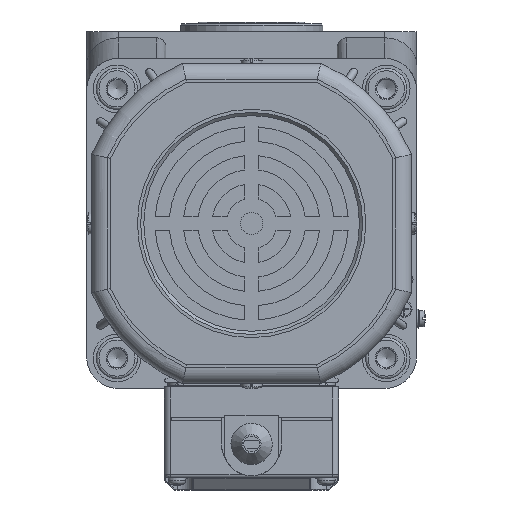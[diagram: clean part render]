
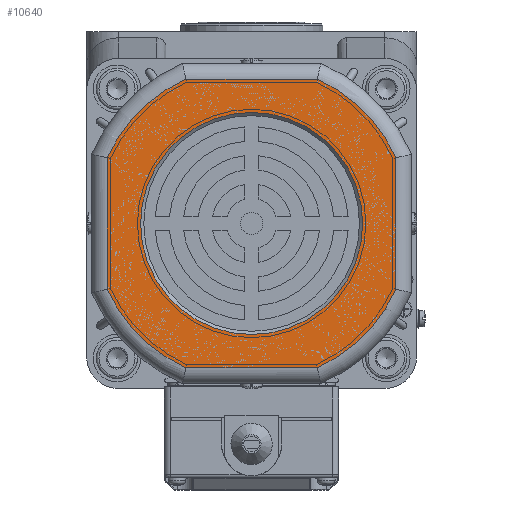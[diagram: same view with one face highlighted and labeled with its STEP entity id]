
A CAD part, left-side view. The second image highlights one B-rep face of the part: STEP entity #10640.
In plain terms, the highlighted planar face has unit normal (-1, 0, 0).
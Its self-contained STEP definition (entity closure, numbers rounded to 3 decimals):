
#1081=PLANE('',#41930);
#5493=LINE('',#59418,#8112);
#5494=LINE('',#59423,#8113);
#5495=LINE('',#59427,#8114);
#5496=LINE('',#59431,#8115);
#8112=VECTOR('',#47693,1.);
#8113=VECTOR('',#47696,1.);
#8114=VECTOR('',#47699,1.);
#8115=VECTOR('',#47702,1.);
#10640=ADVANCED_FACE('',(#13661,#13662),#1081,.F.);
#13661=FACE_BOUND('',#15000,.T.);
#13662=FACE_BOUND('',#15001,.T.);
#15000=EDGE_LOOP('',(#19329,#19330,#19331,#19332,#19333,#19334,#19335,#19336));
#15001=EDGE_LOOP('',(#19337));
#19329=ORIENTED_EDGE('',*,*,#33931,.T.);
#19330=ORIENTED_EDGE('',*,*,#33932,.T.);
#19331=ORIENTED_EDGE('',*,*,#33933,.T.);
#19332=ORIENTED_EDGE('',*,*,#33934,.T.);
#19333=ORIENTED_EDGE('',*,*,#33935,.T.);
#19334=ORIENTED_EDGE('',*,*,#33936,.T.);
#19335=ORIENTED_EDGE('',*,*,#33937,.T.);
#19336=ORIENTED_EDGE('',*,*,#33938,.T.);
#19337=ORIENTED_EDGE('',*,*,#33939,.T.);
#29749=VERTEX_POINT('',#59419);
#29750=VERTEX_POINT('',#59420);
#29751=VERTEX_POINT('',#59422);
#29752=VERTEX_POINT('',#59424);
#29753=VERTEX_POINT('',#59426);
#29754=VERTEX_POINT('',#59428);
#29755=VERTEX_POINT('',#59430);
#29756=VERTEX_POINT('',#59432);
#29757=VERTEX_POINT('',#59435);
#33931=EDGE_CURVE('',#29749,#29750,#5493,.T.);
#33932=EDGE_CURVE('',#29750,#29751,#39421,.T.);
#33933=EDGE_CURVE('',#29751,#29752,#5494,.T.);
#33934=EDGE_CURVE('',#29752,#29753,#39422,.T.);
#33935=EDGE_CURVE('',#29753,#29754,#5495,.T.);
#33936=EDGE_CURVE('',#29754,#29755,#39423,.T.);
#33937=EDGE_CURVE('',#29755,#29756,#5496,.T.);
#33938=EDGE_CURVE('',#29756,#29749,#39424,.T.);
#33939=EDGE_CURVE('',#29757,#29757,#39425,.T.);
#39421=CIRCLE('',#41925,50.);
#39422=CIRCLE('',#41926,50.);
#39423=CIRCLE('',#41927,50.);
#39424=CIRCLE('',#41928,50.);
#39425=CIRCLE('',#41929,35.);
#41925=AXIS2_PLACEMENT_3D('',#59421,#47694,#47695);
#41926=AXIS2_PLACEMENT_3D('',#59425,#47697,#47698);
#41927=AXIS2_PLACEMENT_3D('',#59429,#47700,#47701);
#41928=AXIS2_PLACEMENT_3D('',#59433,#47703,#47704);
#41929=AXIS2_PLACEMENT_3D('',#59434,#47705,#47706);
#41930=AXIS2_PLACEMENT_3D('',#59436,#47707,#47708);
#47693=DIRECTION('',(0.,-1.,0.));
#47694=DIRECTION('',(-1.,0.,0.));
#47695=DIRECTION('',(0.,0.,1.));
#47696=DIRECTION('',(0.,0.,1.));
#47697=DIRECTION('',(-1.,0.,0.));
#47698=DIRECTION('',(0.,0.,1.));
#47699=DIRECTION('',(0.,1.,0.));
#47700=DIRECTION('',(-1.,0.,0.));
#47701=DIRECTION('',(0.,0.,1.));
#47702=DIRECTION('',(0.,0.,-1.));
#47703=DIRECTION('',(-1.,0.,0.));
#47704=DIRECTION('',(0.,0.,1.));
#47705=DIRECTION('',(1.,0.,0.));
#47706=DIRECTION('',(0.,-1.,0.));
#47707=DIRECTION('',(1.,0.,0.));
#47708=DIRECTION('',(0.,0.,1.));
#59418=CARTESIAN_POINT('',(-228.8,-142.46,-103.991));
#59419=CARTESIAN_POINT('',(-228.8,-99.941,-103.991));
#59420=CARTESIAN_POINT('',(-228.8,-141.402,-103.991));
#59421=CARTESIAN_POINT('',(-228.8,-120.671,-58.491));
#59422=CARTESIAN_POINT('',(-228.8,-166.171,-79.221));
#59423=CARTESIAN_POINT('',(-228.8,-166.171,-36.702));
#59424=CARTESIAN_POINT('',(-228.8,-166.171,-37.76));
#59425=CARTESIAN_POINT('',(-228.8,-120.671,-58.491));
#59426=CARTESIAN_POINT('',(-228.8,-141.402,-12.991));
#59427=CARTESIAN_POINT('',(-228.8,-98.882,-12.991));
#59428=CARTESIAN_POINT('',(-228.8,-99.941,-12.991));
#59429=CARTESIAN_POINT('',(-228.8,-120.671,-58.491));
#59430=CARTESIAN_POINT('',(-228.8,-75.171,-37.76));
#59431=CARTESIAN_POINT('',(-228.8,-75.171,-80.28));
#59432=CARTESIAN_POINT('',(-228.8,-75.171,-79.221));
#59433=CARTESIAN_POINT('',(-228.8,-120.671,-58.491));
#59434=CARTESIAN_POINT('',(-228.8,-120.671,-58.491));
#59435=CARTESIAN_POINT('',(-228.8,-155.671,-58.491));
#59436=CARTESIAN_POINT('',(-228.8,-120.671,-58.491));
